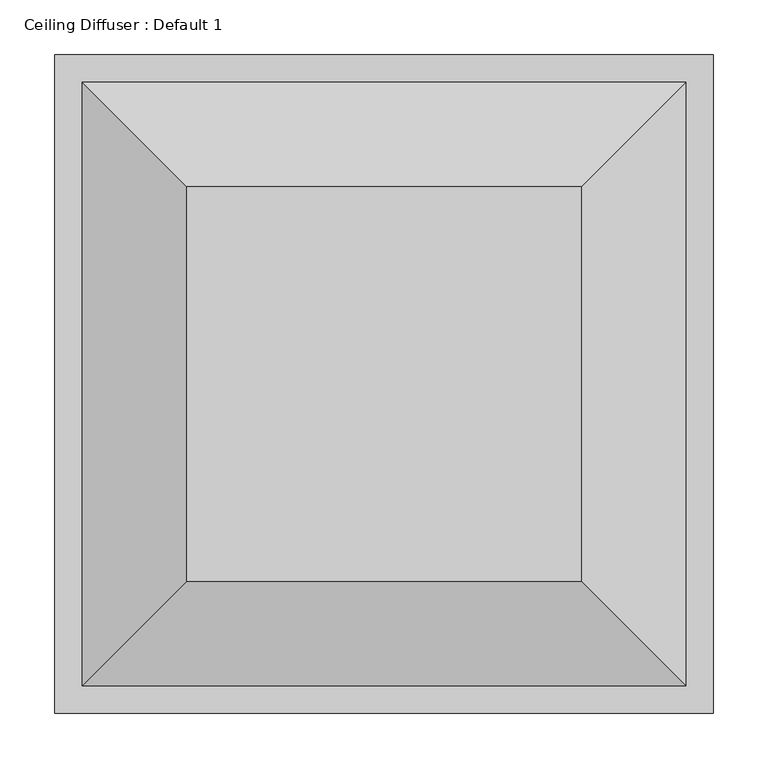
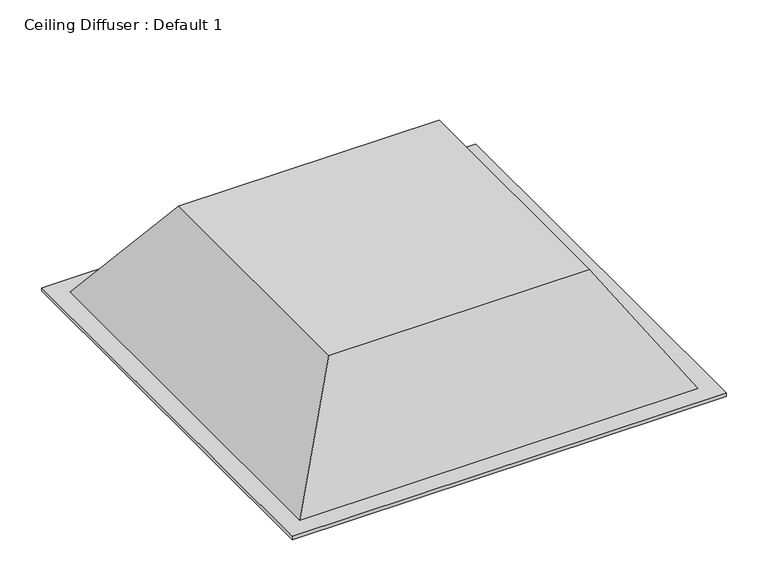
"""IFC4 building model written with IfcOpenShell, lengths in millimetres: proxy geometry, Ceiling Diffuser : Default 1."""

from ifc_helpers import new_model, si_unit, frame, origin, place, context, project, spatial, polyline, outline, extrude, faceted_brep, source, transform, mapped, element, save


def ceiling_diffuser_default_1_edc1f895(model_context):
    return source(origin(), model_context, "Body", "SolidModel", [
        extrude(outline(polyline([(249.6055617, 249.5988834), (249.6055617, -249.5988834), (-249.6055617, -249.5988834), (-249.6055617, 249.5988834), (249.6055617, 249.5988834)]), holes=[polyline([(239.5801106, 239.5988834), (-239.6055617, 239.5988834), (-239.6055617, -239.5734323), (239.5801106, -239.5734323), (239.5801106, 239.5988834)])]), frame((0.0, 0.0, -5.0), z_axis=(0.0, 0.0, 1.0), x_axis=(1.0, 0.0, 0.0)), (0.0, 0.0, 1.0), 5.0),
        extrude(outline(polyline([(214.1801106, 214.1988834), (214.1801106, -214.1988834), (-214.1801106, -214.1988834), (-214.1801106, 214.1988834), (214.1801106, 214.1988834)]), holes=[polyline([(204.1801106, 204.1988834), (-204.1801106, 204.1988834), (-204.1801106, -204.1988834), (204.1801106, -204.1988834), (204.1801106, 204.1988834)])]), frame((0.0, 0.0, -5.0), z_axis=(0.0, 0.0, 1.0), x_axis=(1.0, 0.0, 0.0)), (0.0, 0.0, 1.0), 5.0),
        extrude(outline(polyline([(178.7801106, 178.7988834), (178.7801106, -178.8243345), (-178.7546596, -178.8243345), (-178.7546596, 178.7988834), (178.7801106, 178.7988834)]), holes=[polyline([(168.7546596, 168.7988834), (-168.7546596, 168.7988834), (-168.7546596, -168.7988834), (168.7546596, -168.7988834), (168.7546596, 168.7988834)])]), frame((0.0, 0.0, -5.0), z_axis=(0.0, 0.0, 1.0), x_axis=(1.0, 0.0, 0.0)), (0.0, 0.0, 1.0), 5.0),
        faceted_brep([(5.0055617, 5.0265677, 40.0), (-5.0198894, 5.0265677, 40.0), (-5.0198894, -4.9988834, 40.0), (5.0055617, -4.9988834, 40.0), (59.9801106, 60.0011166, 0.0), (59.9801106, -59.9734323, 0.0), (-59.9944383, -59.9734323, 0.0), (-59.9944383, 60.0011166, 0.0)], [[[0, 1, 2, 3]], [[4, 5, 6, 7]], [[4, 7, 1, 0]], [[7, 6, 2, 1]], [[6, 5, 3, 2]], [[5, 4, 0, 3]]]),
        extrude(outline(polyline([(300.0055617, 299.9988834), (300.0055617, -299.9988834), (-300.0055617, -299.9988834), (-300.0055617, 299.9988834), (300.0055617, 299.9988834)]), holes=[polyline([(275.0055617, 274.9988834), (-275.0055617, 274.9988834), (-275.0055617, -274.9988834), (275.0055617, -274.9988834), (275.0055617, 274.9988834)])]), frame((0.0, 0.0, -5.0), z_axis=(0.0, 0.0, 1.0), x_axis=(1.0, 0.0, 0.0)), (0.0, 0.0, 1.0), 5.0),
        faceted_brep([(180.0055617, 179.9988834, 150.0), (-179.9944383, 179.9988834, 150.0), (-179.9944383, -179.9988834, 150.0), (180.0055617, -179.9988834, 150.0), (275.0055617, 274.9988834, 0.0), (275.0055617, -274.9988834, 0.0), (-275.0055617, -274.9988834, 0.0), (-275.0055617, 274.9988834, 0.0)], [[[0, 1, 2, 3]], [[4, 5, 6, 7]], [[4, 7, 1, 0]], [[7, 6, 2, 1]], [[6, 5, 3, 2]], [[5, 4, 0, 3]]]),
    ])


if __name__ == "__main__":
    model = new_model("IFC4")
    model_context = context("Model", 3, world=origin())
    ifc_project = project(units=[si_unit("LENGTHUNIT", "METRE", prefix="MILLI")], contexts=[model_context])
    site = spatial("IfcSite", under=ifc_project)
    building = spatial("IfcBuilding", under=site)
    placement = place(None, origin())
    ceiling_diffuser_default_1_shape = ceiling_diffuser_default_1_edc1f895(model_context)
    element("IfcBuildingElementProxy", 1, Name="Ceiling Diffuser : Default 1", ObjectType="Ceiling Diffuser : Default 1", at=placement, inside=building, context=model_context, shape_type="MappedRepresentation", body=[
        mapped(ceiling_diffuser_default_1_shape, transform((0.0, 0.0, 0.0), x_axis=(1.0, 0.0, 0.0), y_axis=(0.0, 1.0, 0.0), z_axis=(0.0, 0.0, 1.0))),
    ])
    save(model, "model.ifc")
